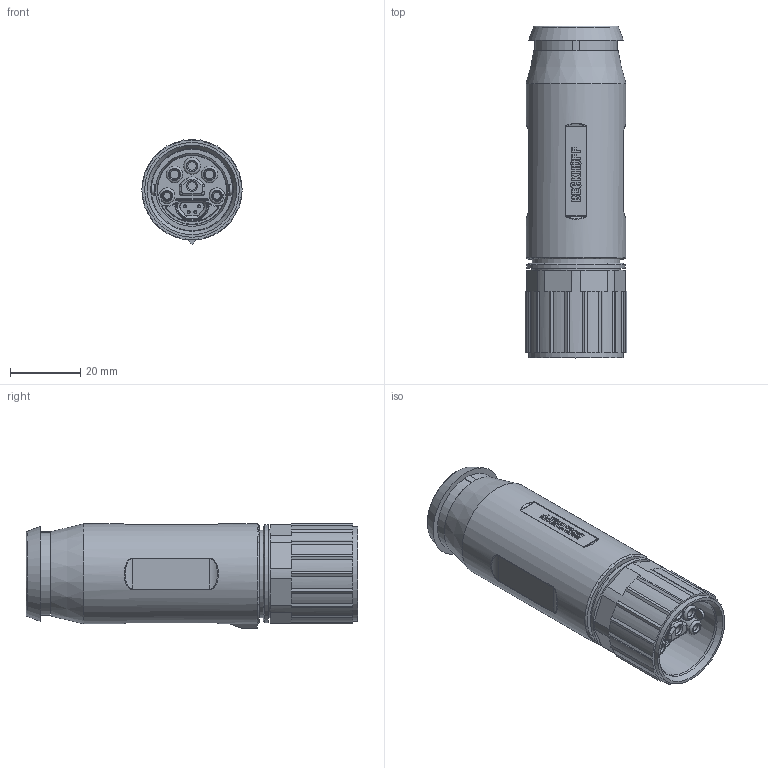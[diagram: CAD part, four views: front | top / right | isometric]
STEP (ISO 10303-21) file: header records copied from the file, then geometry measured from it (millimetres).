
FILE_DESCRIPTION(/* description */ (''),/* implementation_level */ '2;1');
FILE_NAME(/* name */ 'X:\0-inventor\0-3d-Teile\PC-Compo\solids\EtherCAT-P_Stecker_Buchsen\0-Ausgabe\B23 ENP und ECP_T0509\B23_Umspritzt\ENP\6pol\ENP_6pol_Pbu_Step.stp',/* time_stamp */ '2019-05-16T15:47:10+02:00',/* author */ ('ChristianKreuzer'),/* organization */ ('Design-AG'),/* preprocessor_version */ 'ST-DEVELOPER v17.2',/* originating_system */ 'Autodesk Inventor 2019',/* authorisation */ '');
FILE_SCHEMA (('AUTOMOTIVE_DESIGN { 1 0 10303 214 3 1 1 }'));
Length unit declared in the file: millimetre
Products named in the file (1): ENP_6pol_Pbu_Step
Bounding box: 29 x 94.6 x 29.78 mm (x, y, z)
Volume: 49908.9 mm3; surface area: 19155.8 mm2
Topology: 11 solids, 11 shells, 749 faces, 2026 edges, 1327 vertices
Faces by surface type: plane 549, cylinder 119, cone 46, bspline 20, torus 11, sphere 4
Full cylindrical faces by diameter (mm): 0.8 x4, 2 x2, 2.4 x4, 2.7 x2, 3 x2, 3.6 x4, 4.8 x3, 19.6 x1, 19.8 x1, 23.2 x1, 24.95 x1, 25.1 x1, 25.2 x1, 26.4 x1, 27 x1, 28 x1, 28.5 x1
Entity records: 24733 total; most frequent: CARTESIAN_POINT 4835, ORIENTED_EDGE 4044, DIRECTION 3833, EDGE_CURVE 2022, LINE 1591, VECTOR 1591, VERTEX_POINT 1327, AXIS2_PLACEMENT_3D 1121
